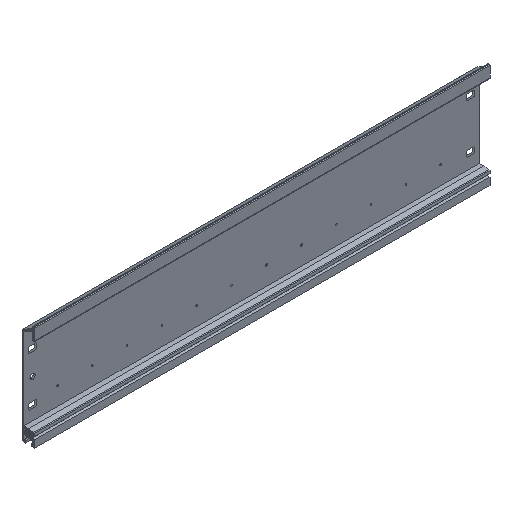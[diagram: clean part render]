
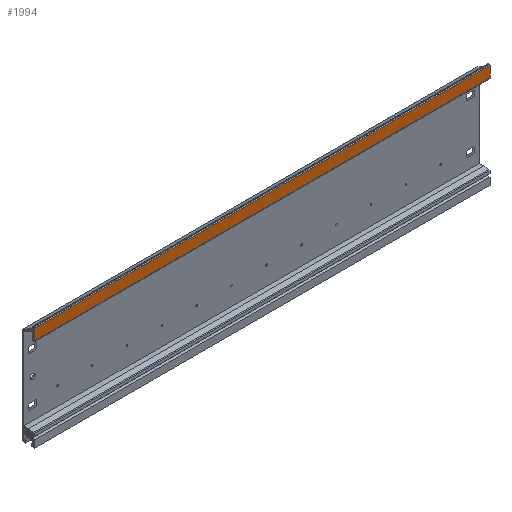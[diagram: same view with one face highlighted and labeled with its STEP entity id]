
A CAD part, isometric view. The second image highlights one B-rep face of the part: STEP entity #1994.
In plain terms, the highlighted planar face has unit normal (0, -1, 0).
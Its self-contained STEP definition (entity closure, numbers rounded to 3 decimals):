
#1=DIRECTION('',(0.,0.,-1.));
#2=VECTOR('',#1,12.8);
#3=CARTESIAN_POINT('',(-363.062,-13.6,65.));
#4=LINE('',#3,#2);
#5=DIRECTION('',(0.,0.,-1.));
#6=VECTOR('',#5,12.8);
#7=CARTESIAN_POINT('',(166.938,-13.6,65.));
#8=LINE('',#7,#6);
#13=DIRECTION('',(-1.,0.,0.));
#14=VECTOR('',#13,530.);
#15=CARTESIAN_POINT('',(166.938,-13.6,52.2));
#16=LINE('',#15,#14);
#1386=DIRECTION('',(1.,0.,0.));
#1387=VECTOR('',#1386,530.);
#1388=CARTESIAN_POINT('',(-363.062,-13.6,65.));
#1389=LINE('',#1388,#1387);
#1594=CARTESIAN_POINT('',(166.938,-13.6,65.));
#1596=VERTEX_POINT('',#1594);
#1600=CARTESIAN_POINT('',(166.938,-13.6,52.2));
#1602=VERTEX_POINT('',#1600);
#1785=CARTESIAN_POINT('',(-363.062,-13.6,65.));
#1786=VERTEX_POINT('',#1785);
#1791=CARTESIAN_POINT('',(-363.062,-13.6,52.2));
#1792=VERTEX_POINT('',#1791);
#1979=CARTESIAN_POINT('',(-1000.,-13.6,66.4));
#1980=DIRECTION('',(0.,-1.,0.));
#1981=DIRECTION('',(0.,0.,-1.));
#1982=AXIS2_PLACEMENT_3D('',#1979,#1980,#1981);
#1983=PLANE('',#1982);
#1985=ORIENTED_EDGE('',*,*,#1984,.T.);
#1987=ORIENTED_EDGE('',*,*,#1986,.F.);
#1989=ORIENTED_EDGE('',*,*,#1988,.T.);
#1991=ORIENTED_EDGE('',*,*,#1990,.T.);
#1992=EDGE_LOOP('',(#1985,#1987,#1989,#1991));
#1993=FACE_OUTER_BOUND('',#1992,.F.);
#1994=ADVANCED_FACE('',(#1993),#1983,.T.);
#1984=EDGE_CURVE('',#1602,#1792,#16,.T.);
#1986=EDGE_CURVE('',#1786,#1792,#4,.T.);
#1988=EDGE_CURVE('',#1786,#1596,#1389,.T.);
#1990=EDGE_CURVE('',#1596,#1602,#8,.T.);
